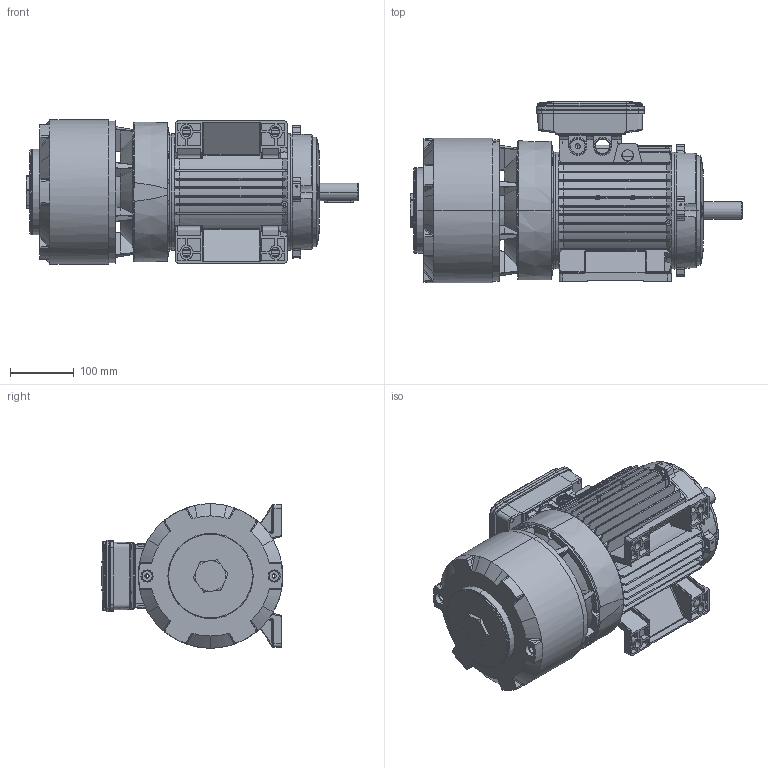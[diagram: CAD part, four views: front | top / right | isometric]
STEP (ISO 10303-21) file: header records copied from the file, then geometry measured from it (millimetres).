
FILE_DESCRIPTION (( 'STEP AP214' ), '1' );
FILE_NAME ('M08HA0010.STEP', '2020-11-04T16:29:57', ( '' ), ( '' ), 'SwSTEP 2.0', 'SolidWorks 2018', '' );
FILE_SCHEMA (( 'AUTOMOTIVE_DESIGN' ));
Length unit declared in the file: millimetre
Products named in the file (14): M08HA0010; Chiavetta 100-112; Albero BA 112; Scatola per Morsettiera Doppia 90-100-112 - Completa; Guarnizione Coperchio Semplice Scatola BA 90 100 112 - DDAL0094; Vite  a testa bombata M4x16; Coperchio per Scatola per Morsettiera Doppia 90-100-112; Scatola per Morsettiera Doppia 90-100-112; Tappo a testa Esagonale M40x1,5; Getto BAH 112 lavorato - DFEI0018; Scudo Lato Freno BA 112 P1 - DFAE0094; Convogliatore con pista di attrito P2 BAH 112; Scudo Lato Comando B3 BA-BM 112 - DFAD0194; Carcassa 112 B3
Assembly tree (16 placements, depth 3):
  M08HA0010
    Carcassa 112 B3
    Scudo Lato Comando B3 BA-BM 112 - DFAD0194
    Convogliatore con pista di attrito P2 BAH 112
    Scudo Lato Freno BA 112 P1 - DFAE0094
    Getto BAH 112 lavorato - DFEI0018
    Tappo a testa Esagonale M40x1,5
    Scatola per Morsettiera Doppia 90-100-112 - Completa
      Scatola per Morsettiera Doppia 90-100-112
      Coperchio per Scatola per Morsettiera Doppia 90-100-112
      Vite  a testa bombata M4x16  x4
      Guarnizione Coperchio Semplice Scatola BA 90 100 112 - DDAL0094
    Albero BA 112
    Chiavetta 100-112
Bounding box: 522.5 x 285.6 x 227.5 mm (x, y, z)
Volume: 3178376.8 mm3; surface area: 1438817.3 mm2
Topology: 15 solids, 15 shells, 4211 faces, 11127 edges, 6964 vertices
Faces by surface type: cylinder 1215, plane 1215, bspline 982, cone 404, torus 395
Entity records: 169212 total; most frequent: CARTESIAN_POINT 75541, ORIENTED_EDGE 21346, DIRECTION 15800, EDGE_CURVE 10673, VERTEX_POINT 6736, AXIS2_PLACEMENT_3D 6099, EDGE_LOOP 4277, ADVANCED_FACE 4031
